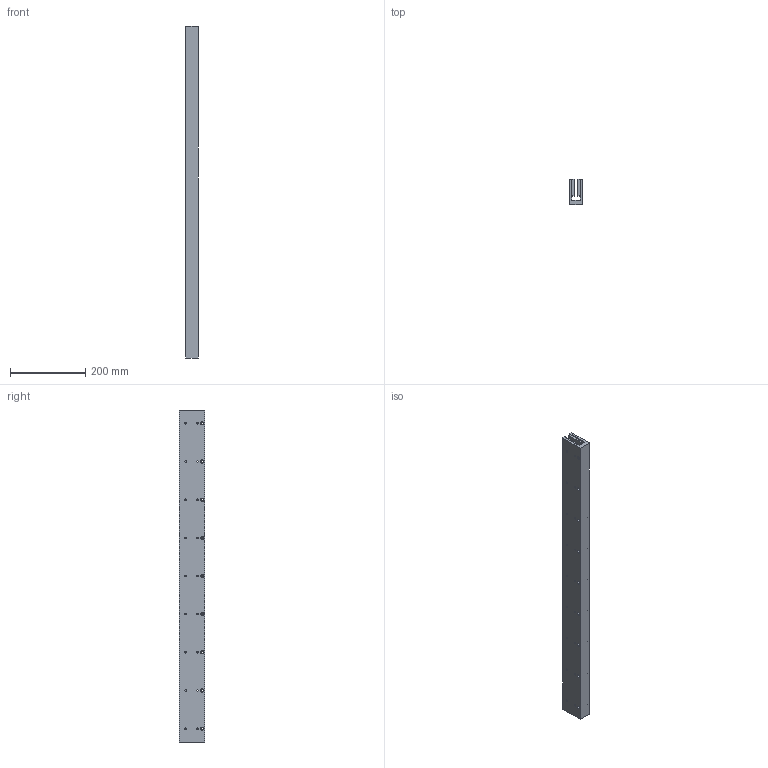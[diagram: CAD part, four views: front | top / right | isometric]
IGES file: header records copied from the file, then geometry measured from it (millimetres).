
Global section: file name: No Iges File Name specified; native system: Autodesk Inventor 2009; preprocessor: AutoDesk Inventor Iges Exporter R2009; author: je17857; date: 20091116.111538; units: inch
Bounding box: 34.29 x 67.31 x 883.92 mm (x, y, z)
Volume: 1321153.6 mm3; surface area: 333543.4 mm2
Topology: 1 solids, 1 shells, 462 faces, 1098 edges, 732 vertices
Faces by surface type: plane 318, bspline 144
